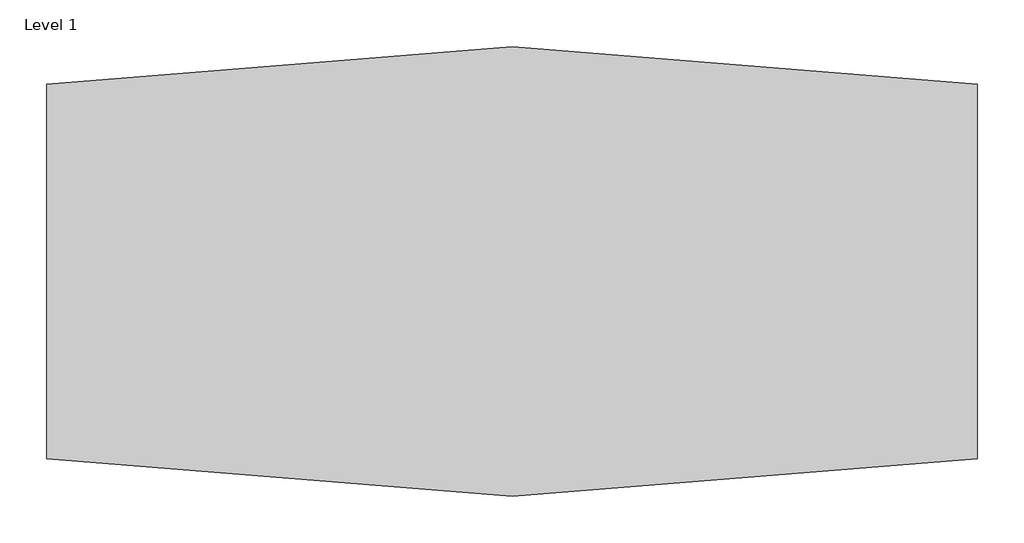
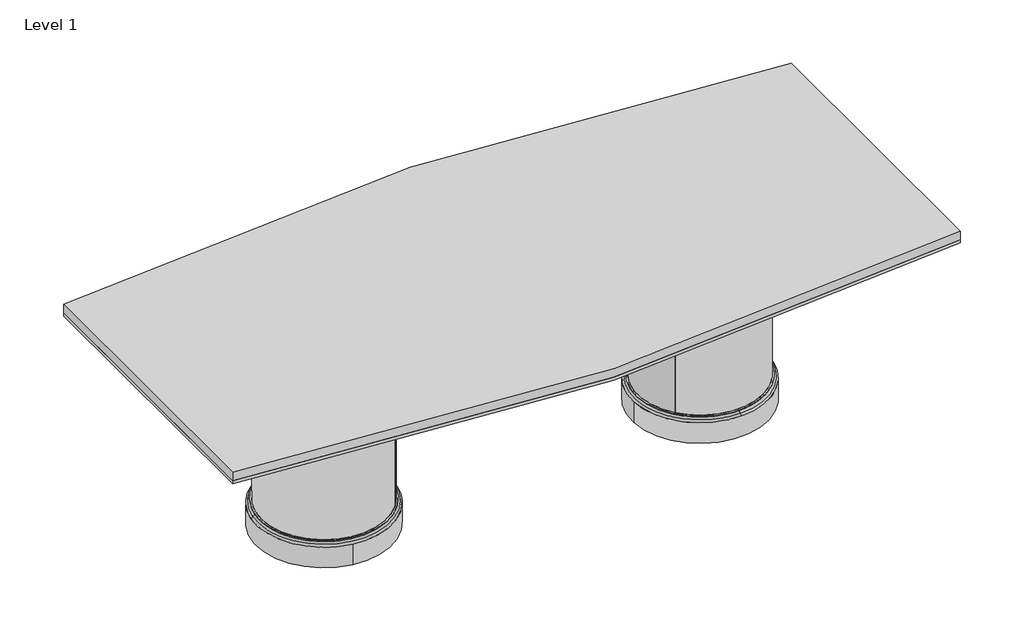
# One storey, incomplete: 14 proxies.
"""IFC4 building model written with IfcOpenShell, lengths in millimetres."""

from ifc_helpers import new_model, si_unit, origin, place, context, project, spatial, transform, mapped, element, save
from components import generic_models_16b2119f, generic_models_b2afe65e, generic_models_41ea9b8c, generic_models_aa58a614, generic_models_c0f88156, generic_models_fb54c845, generic_models_588f0a65, generic_models_c2c81678

model = new_model("IFC4")

# Units and contexts
model_context = context("Model", 3, world=origin())
ifc_project = project(units=[si_unit("LENGTHUNIT", "METRE", prefix="MILLI")], contexts=[model_context])

# Site, building, storey
site = spatial("IfcSite", under=ifc_project)
building = spatial("IfcBuilding", under=site)
storey = spatial("IfcBuildingStorey", under=building, Name="Level 1", Elevation=0.0)

# Proxies
placement = place(None, origin())
generic_models_shape = generic_models_16b2119f(model_context)
element("IfcBuildingElementProxy", 1, Name="CAMBRIDGE^TABLE 3_2 BASE BOAT-PLINTH SOLID", ObjectType="CAMBRIDGE^TABLE 3_2 BASE BOAT-PLINTH SOLID", at=placement, inside=storey, context=model_context, shape_type="MappedRepresentation", body=[
    mapped(generic_models_shape, transform((106.4640439, 1336.4022784, 0.0), x_axis=(0.14988326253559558, 0.9887037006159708, 0.0), y_axis=(0.0, 0.0, 0.9999999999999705), z_axis=(0.9887037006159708, -0.14988326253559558, 0.0))),
])
element("IfcBuildingElementProxy", 2, Name="CAMBRIDGE^TABLE 3_2 BASE BOAT-PLINTH SOLID", ObjectType="CAMBRIDGE^TABLE 3_2 BASE BOAT-PLINTH SOLID", at=placement, inside=storey, context=model_context, shape_type="MappedRepresentation", body=[
    mapped(generic_models_shape, transform((1470.5726651, 26.1807886, 0.0), x_axis=(0.9994271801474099, 0.03384245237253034, 0.0), y_axis=(0.0, 0.0, 1.00000000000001), z_axis=(0.03384245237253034, -0.9994271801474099, 0.0))),
])
generic_models_2_shape = generic_models_b2afe65e(model_context)
element("IfcBuildingElementProxy", 3, Name="CAMBRIDGE^TABLE 3_2 BASE BOAT-BASE DOOR", ObjectType="CAMBRIDGE^TABLE 3_2 BASE BOAT-BASE DOOR", at=placement, inside=storey, context=model_context, shape_type="MappedRepresentation", body=[
    mapped(generic_models_2_shape, transform((76.2, 0.0, 0.0), x_axis=(1.0, 0.0, 0.0), y_axis=(0.0, 0.0, 1.0), z_axis=(0.0, -1.0, 0.0))),
])
element("IfcBuildingElementProxy", 4, Name="CAMBRIDGE^TABLE 3_2 BASE BOAT-BASE DOOR", ObjectType="CAMBRIDGE^TABLE 3_2 BASE BOAT-BASE DOOR", at=placement, inside=storey, context=model_context, shape_type="MappedRepresentation", body=[
    mapped(generic_models_2_shape, transform((-76.2, 1371.6, 0.0), x_axis=(-1.0, 0.0, 0.0), y_axis=(0.0, 0.0, 1.0), z_axis=(0.0, 1.0, 0.0))),
])
generic_models_3_shape = generic_models_41ea9b8c(model_context)
element("IfcBuildingElementProxy", 5, Name="CAMBRIDGE^TABLE 3_2 BASE BOAT-SUB TOP", ObjectType="CAMBRIDGE^TABLE 3_2 BASE BOAT-SUB TOP", at=placement, inside=storey, context=model_context, shape_type="MappedRepresentation", body=[
    mapped(generic_models_3_shape, transform((76.2, 0.0, 0.0), x_axis=(1.0, 0.0, 0.0), y_axis=(0.0, 0.0, 1.0), z_axis=(0.0, -1.0, 0.0))),
])
element("IfcBuildingElementProxy", 6, Name="CAMBRIDGE^TABLE 3_2 BASE BOAT-SUB TOP", ObjectType="CAMBRIDGE^TABLE 3_2 BASE BOAT-SUB TOP", at=placement, inside=storey, context=model_context, shape_type="MappedRepresentation", body=[
    mapped(generic_models_3_shape, transform((-76.2, 1371.6, 0.0), x_axis=(-1.0, 0.0, 0.0), y_axis=(0.0, 0.0, 1.0), z_axis=(0.0, 1.0, 0.0))),
])
generic_models_4_shape = generic_models_aa58a614(model_context)
element("IfcBuildingElementProxy", 7, Name="CAMBRIDGE^TABLE 3_2 BASE BOAT-BASE TOP", ObjectType="CAMBRIDGE^TABLE 3_2 BASE BOAT-BASE TOP", at=placement, inside=storey, context=model_context, shape_type="MappedRepresentation", body=[
    mapped(generic_models_4_shape, transform((-76.2, 1371.6, 0.0), x_axis=(-1.0, 0.0, 0.0), y_axis=(0.0, 0.0, 1.0), z_axis=(0.0, 1.0, 0.0))),
])
element("IfcBuildingElementProxy", 8, Name="CAMBRIDGE^TABLE 3_2 BASE BOAT-BASE TOP", ObjectType="CAMBRIDGE^TABLE 3_2 BASE BOAT-BASE TOP", at=placement, inside=storey, context=model_context, shape_type="MappedRepresentation", body=[
    mapped(generic_models_4_shape, transform((76.2, 0.0, 0.0), x_axis=(1.0, 0.0, 0.0), y_axis=(0.0, 0.0, 1.0), z_axis=(0.0, -1.0, 0.0))),
])
generic_models_5_shape = generic_models_c0f88156(model_context)
element("IfcBuildingElementProxy", 9, Name="CAMBRIDGE^TABLE 3_2 BASE BOAT-PLINTH TOP", ObjectType="CAMBRIDGE^TABLE 3_2 BASE BOAT-PLINTH TOP", at=placement, inside=storey, context=model_context, shape_type="MappedRepresentation", body=[
    mapped(generic_models_5_shape, transform((-76.2, 1371.6, 0.0), x_axis=(-1.0, 0.0, 0.0), y_axis=(0.0, 0.0, 1.0), z_axis=(0.0, 1.0, 0.0))),
])
element("IfcBuildingElementProxy", 10, Name="CAMBRIDGE^TABLE 3_2 BASE BOAT-PLINTH TOP", ObjectType="CAMBRIDGE^TABLE 3_2 BASE BOAT-PLINTH TOP", at=placement, inside=storey, context=model_context, shape_type="MappedRepresentation", body=[
    mapped(generic_models_5_shape, transform((76.2, 0.0, 0.0), x_axis=(1.0, 0.0, 0.0), y_axis=(0.0, 0.0, 1.0), z_axis=(0.0, -1.0, 0.0))),
])
generic_models_6_shape = generic_models_fb54c845(model_context)
element("IfcBuildingElementProxy", 11, Name="CAMBRIDGE^TABLE 3_2 BASE BOAT-BASE SHELL", ObjectType="CAMBRIDGE^TABLE 3_2 BASE BOAT-BASE SHELL", at=placement, inside=storey, context=model_context, shape_type="MappedRepresentation", body=[
    mapped(generic_models_6_shape, transform((76.2, 0.0, 0.0), x_axis=(1.0, 0.0, 0.0), y_axis=(0.0, 0.0, 1.0), z_axis=(0.0, -1.0, 0.0))),
])
element("IfcBuildingElementProxy", 12, Name="CAMBRIDGE^TABLE 3_2 BASE BOAT-BASE SHELL", ObjectType="CAMBRIDGE^TABLE 3_2 BASE BOAT-BASE SHELL", at=placement, inside=storey, context=model_context, shape_type="MappedRepresentation", body=[
    mapped(generic_models_6_shape, transform((-76.2, 1371.6, 0.0), x_axis=(-1.0, 0.0, 0.0), y_axis=(0.0, 0.0, 1.0), z_axis=(0.0, 1.0, 0.0))),
])
generic_models_7_shape = generic_models_588f0a65(model_context)
element("IfcBuildingElementProxy", 13, Name="CAMBRIDGE^TABLE 3_2 BASE BOAT-TOP", ObjectType="CAMBRIDGE^TABLE 3_2 BASE BOAT-TOP", at=placement, inside=storey, context=model_context, shape_type="MappedRepresentation", body=[
    mapped(generic_models_7_shape, transform((0.0, 0.0, 0.0), x_axis=(1.0, 0.0, 0.0), y_axis=(0.0, 0.0, 1.0), z_axis=(0.0, -1.0, 0.0))),
])
generic_models_8_shape = generic_models_c2c81678(model_context)
element("IfcBuildingElementProxy", 14, Name="CAMBRIDGE^TABLE 3_2 BASE BOAT-TOP BLOCKING", ObjectType="CAMBRIDGE^TABLE 3_2 BASE BOAT-TOP BLOCKING", at=placement, inside=storey, context=model_context, shape_type="MappedRepresentation", body=[
    mapped(generic_models_8_shape, transform((0.0, 0.0, 0.0), x_axis=(1.0, 0.0, 0.0), y_axis=(0.0, 0.0, 1.0), z_axis=(0.0, -1.0, 0.0))),
])

save(model, "model.ifc")
